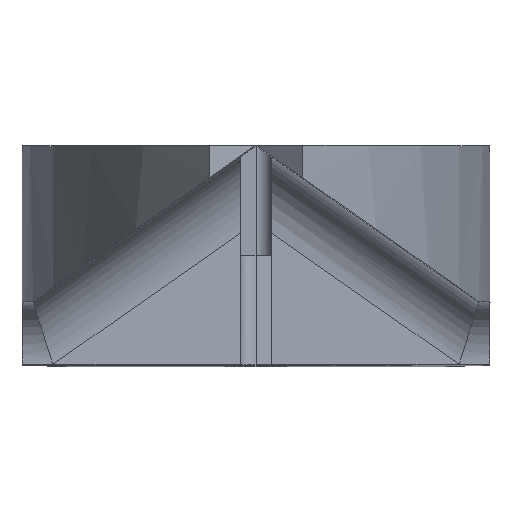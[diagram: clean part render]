
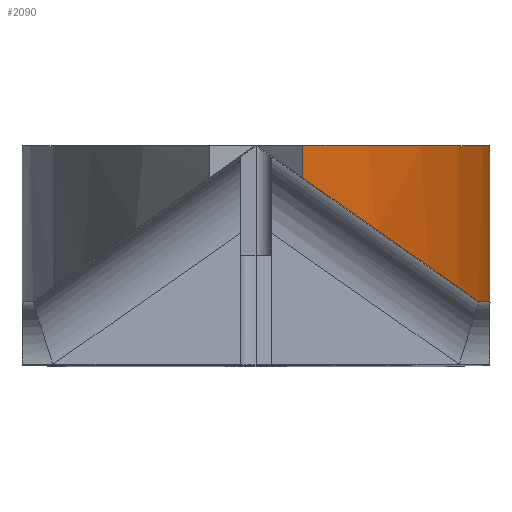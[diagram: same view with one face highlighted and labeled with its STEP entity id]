
A CAD part, top view. The second image highlights one B-rep face of the part: STEP entity #2090.
In plain terms, the highlighted cylindrical face has radius 25 mm (diameter 50 mm), a partial arc.
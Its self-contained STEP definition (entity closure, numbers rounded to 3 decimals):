
#13 = AXIS2_PLACEMENT_3D ( 'NONE', #2101, #2890, #3115 ) ;
#219 = AXIS2_PLACEMENT_3D ( 'NONE', #1697, #1756, #1859 ) ;
#287 = CIRCLE ( 'NONE', #737, 25. ) ;
#361 = CARTESIAN_POINT ( 'NONE',  ( 7.5, 1.995, 12.834 ) ) ;
#371 = CARTESIAN_POINT ( 'NONE',  ( 7.5, 1.985, 12.752 ) ) ;
#620 = CARTESIAN_POINT ( 'NONE',  ( 7.5, 7., 12.752 ) ) ;
#639 =( BOUNDED_CURVE ( )  B_SPLINE_CURVE ( 3, ( #3021, #1128, #2014, #2946 ),
 .UNSPECIFIED., .F., .F. ) 
 B_SPLINE_CURVE_WITH_KNOTS ( ( 4, 4 ),
 ( 2.434, 2.972 ),
 .UNSPECIFIED. ) 
 CURVE ( )  GEOMETRIC_REPRESENTATION_ITEM ( )  RATIONAL_B_SPLINE_CURVE ( ( 1., 0.976, 0.976, 1. ) ) 
 REPRESENTATION_ITEM ( '' )  );
#737 = AXIS2_PLACEMENT_3D ( 'NONE', #779, #2503, #1025 ) ;
#779 = CARTESIAN_POINT ( 'NONE',  ( -17.5, 7., 12.752 ) ) ;
#784 = ORIENTED_EDGE ( 'NONE', *, *, #1384, .T. ) ;
#843 = CARTESIAN_POINT ( 'NONE',  ( 1.5, 4.477, 29. ) ) ;
#857 = CARTESIAN_POINT ( 'NONE',  ( 7.499, 2., 13. ) ) ;
#905 = EDGE_CURVE ( 'NONE', #1921, #1673, #2507, .T. ) ;
#1025 = DIRECTION ( 'NONE',  ( 0., 0., 1. ) ) ;
#1052 = ORIENTED_EDGE ( 'NONE', *, *, #905, .T. ) ;
#1079 = FACE_OUTER_BOUND ( 'NONE', #2853, .T. ) ;
#1101 = CARTESIAN_POINT ( 'NONE',  ( 7.5, 2., 12.917 ) ) ;
#1128 = CARTESIAN_POINT ( 'NONE',  ( 4.448, 3.885, 25.553 ) ) ;
#1136 = DIRECTION ( 'NONE',  ( 0., -1., 0. ) ) ;
#1181 = VERTEX_POINT ( 'NONE', #3022 ) ;
#1260 = ORIENTED_EDGE ( 'NONE', *, *, #2264, .F. ) ;
#1291 = VERTEX_POINT ( 'NONE', #3119 ) ;
#1331 = CARTESIAN_POINT ( 'NONE',  ( 7.5, 3.5, 12.752 ) ) ;
#1336 = CARTESIAN_POINT ( 'NONE',  ( 1.5, 5.95, 29. ) ) ;
#1381 = ORIENTED_EDGE ( 'NONE', *, *, #1809, .T. ) ;
#1384 = EDGE_CURVE ( 'NONE', #1291, #1944, #1909, .T. ) ;
#1483 = VERTEX_POINT ( 'NONE', #620 ) ;
#1545 = ORIENTED_EDGE ( 'NONE', *, *, #1801, .T. ) ;
#1673 = VERTEX_POINT ( 'NONE', #857 ) ;
#1697 = CARTESIAN_POINT ( 'NONE',  ( -17.5, 1.954, 12.752 ) ) ;
#1756 = DIRECTION ( 'NONE',  ( 0., 1., 0. ) ) ;
#1801 = EDGE_CURVE ( 'NONE', #1944, #1921, #639, .T. ) ;
#1809 = EDGE_CURVE ( 'NONE', #1673, #1181, #2353, .T. ) ;
#1826 = VECTOR ( 'NONE', #2980, 1000. ) ;
#1859 = DIRECTION ( 'NONE',  ( 0., 0., 1. ) ) ;
#1909 = LINE ( 'NONE', #843, #2582 ) ;
#1921 = VERTEX_POINT ( 'NONE', #2070 ) ;
#1944 = VERTEX_POINT ( 'NONE', #1336 ) ;
#2014 = CARTESIAN_POINT ( 'NONE',  ( 6.374, 2.537, 21.446 ) ) ;
#2070 = CARTESIAN_POINT ( 'NONE',  ( 7.141, 2., 16.975 ) ) ;
#2090 = ADVANCED_FACE ( 'NONE', ( #1079 ), #2906, .T. ) ;
#2101 = CARTESIAN_POINT ( 'NONE',  ( -17.5, 2., 12.752 ) ) ;
#2264 = EDGE_CURVE ( 'NONE', #1483, #1181, #2338, .T. ) ;
#2338 = LINE ( 'NONE', #1331, #1826 ) ;
#2353 = B_SPLINE_CURVE_WITH_KNOTS ( 'NONE', 3,
 ( #3039, #1101, #361, #371 ),
 .UNSPECIFIED., .F., .F.,
 ( 4, 4 ),
 ( 0., 0. ),
 .UNSPECIFIED. ) ;
#2435 = ORIENTED_EDGE ( 'NONE', *, *, #3050, .F. ) ;
#2503 = DIRECTION ( 'NONE',  ( 0., 1., 0. ) ) ;
#2507 = CIRCLE ( 'NONE', #13, 25. ) ;
#2582 = VECTOR ( 'NONE', #1136, 1000. ) ;
#2853 = EDGE_LOOP ( 'NONE', ( #1381, #1260, #2435, #784, #1545, #1052 ) ) ;
#2890 = DIRECTION ( 'NONE',  ( 0., 1., 0. ) ) ;
#2906 = CYLINDRICAL_SURFACE ( 'NONE', #219, 25. ) ;
#2946 = CARTESIAN_POINT ( 'NONE',  ( 7.141, 2., 16.975 ) ) ;
#2980 = DIRECTION ( 'NONE',  ( 0., -1., 0. ) ) ;
#3021 = CARTESIAN_POINT ( 'NONE',  ( 1.5, 5.95, 29. ) ) ;
#3022 = CARTESIAN_POINT ( 'NONE',  ( 7.5, 1.985, 12.752 ) ) ;
#3039 = CARTESIAN_POINT ( 'NONE',  ( 7.499, 2., 13. ) ) ;
#3050 = EDGE_CURVE ( 'NONE', #1291, #1483, #287, .T. ) ;
#3115 = DIRECTION ( 'NONE',  ( 0., 0., 1. ) ) ;
#3119 = CARTESIAN_POINT ( 'NONE',  ( 1.5, 7., 29. ) ) ;
